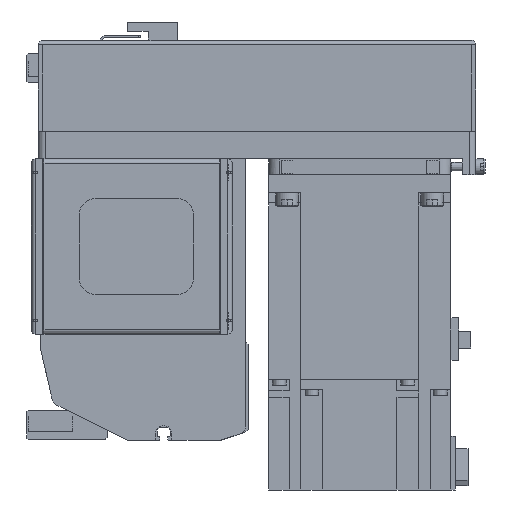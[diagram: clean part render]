
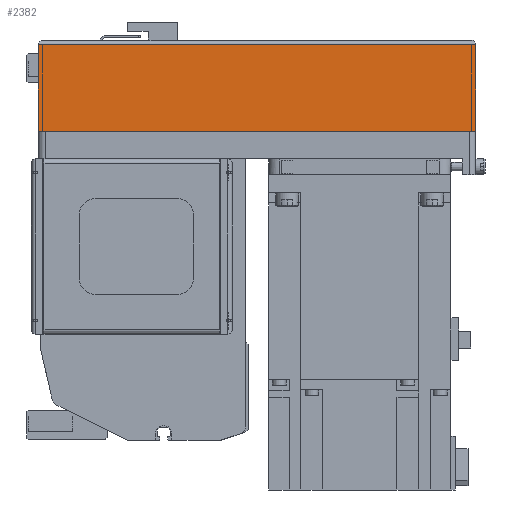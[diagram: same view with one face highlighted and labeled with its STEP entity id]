
A CAD part, left-side view. The second image highlights one B-rep face of the part: STEP entity #2382.
In plain terms, the highlighted planar face has unit normal (-1, 0, 0) as drawn and (0, -1, 0) by its records, which use the part's own axes.
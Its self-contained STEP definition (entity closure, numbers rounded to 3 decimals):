
#2382 = ADVANCED_FACE( '', ( #5342 ), #5343, .T. );
#5342 = FACE_OUTER_BOUND( '', #8898, .T. );
#5343 = PLANE( '', #8899 );
#8898 = EDGE_LOOP( '', ( #15452, #15453, #15454, #15455 ) );
#8899 = AXIS2_PLACEMENT_3D( '', #15456, #15457, #15458 );
#15452 = ORIENTED_EDGE( '', *, *, #22553, .F. );
#15453 = ORIENTED_EDGE( '', *, *, #20300, .F. );
#15454 = ORIENTED_EDGE( '', *, *, #21321, .T. );
#15455 = ORIENTED_EDGE( '', *, *, #22554, .T. );
#15456 = CARTESIAN_POINT( '', ( -192., -40., -12.1 ) );
#15457 = DIRECTION( '', ( 0., -1., 0. ) );
#15458 = DIRECTION( '', ( 0., 0., -1. ) );
#20300 = EDGE_CURVE( '', #24196, #24197, #24198, .T. );
#21321 = EDGE_CURVE( '', #24196, #25941, #25943, .T. );
#22553 = EDGE_CURVE( '', #24197, #27773, #27774, .T. );
#22554 = EDGE_CURVE( '', #25941, #27773, #27775, .T. );
#24196 = VERTEX_POINT( '', #29975 );
#24197 = VERTEX_POINT( '', #29976 );
#24198 = LINE( '', #29977, #29978 );
#25941 = VERTEX_POINT( '', #32810 );
#25943 = LINE( '', #32813, #32814 );
#27773 = VERTEX_POINT( '', #35488 );
#27774 = LINE( '', #35489, #35490 );
#27775 = LINE( '', #35491, #35492 );
#29975 = CARTESIAN_POINT( '', ( -192., -40., -12.1 ) );
#29976 = CARTESIAN_POINT( '', ( 0., -40., -12.1 ) );
#29977 = CARTESIAN_POINT( '', ( -192., -40., -12.1 ) );
#29978 = VECTOR( '', #37886, 1000. );
#32810 = CARTESIAN_POINT( '', ( -192., -40., -50. ) );
#32813 = CARTESIAN_POINT( '', ( -192., -40., -12.1 ) );
#32814 = VECTOR( '', #39172, 1000. );
#35488 = CARTESIAN_POINT( '', ( 0., -40., -50. ) );
#35489 = CARTESIAN_POINT( '', ( 0., -40., -12.1 ) );
#35490 = VECTOR( '', #40637, 1000. );
#35491 = CARTESIAN_POINT( '', ( -192., -40., -50. ) );
#35492 = VECTOR( '', #40638, 1000. );
#37886 = DIRECTION( '', ( 1., 0., 0. ) );
#39172 = DIRECTION( '', ( 0., 0., -1. ) );
#40637 = DIRECTION( '', ( 0., 0., -1. ) );
#40638 = DIRECTION( '', ( 1., 0., 0. ) );
